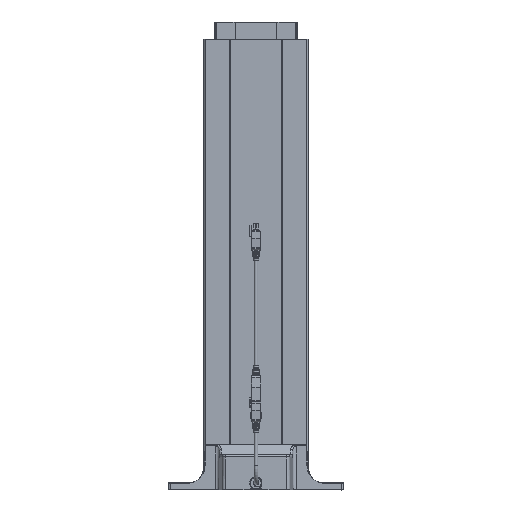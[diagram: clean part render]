
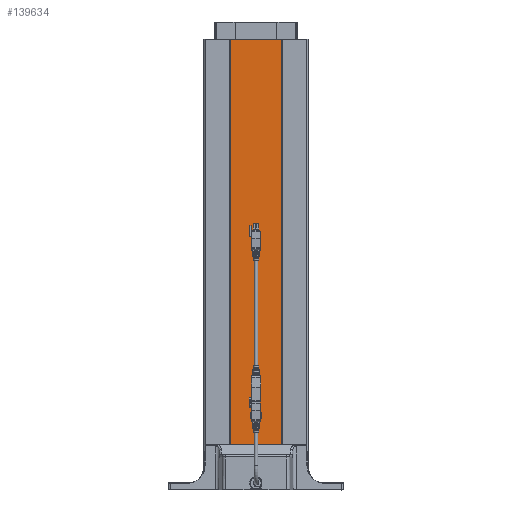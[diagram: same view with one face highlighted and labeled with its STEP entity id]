
A CAD part, top view. The second image highlights one B-rep face of the part: STEP entity #139634.
In plain terms, the highlighted planar face has unit normal (0, 0, 1) as drawn and (0, 1, 0) by its records, which use the part's own axes.
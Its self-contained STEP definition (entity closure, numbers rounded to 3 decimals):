
#35397=ORIENTED_EDGE('',*,*,#54428,.T.);
#35398=ORIENTED_EDGE('',*,*,#54481,.F.);
#35399=ORIENTED_EDGE('',*,*,#54294,.F.);
#35400=ORIENTED_EDGE('',*,*,#54480,.T.);
#54294=EDGE_CURVE('',#64666,#64667,#70832,.T.);
#54428=EDGE_CURVE('',#64801,#64800,#70930,.T.);
#54480=EDGE_CURVE('',#64666,#64801,#70978,.T.);
#54481=EDGE_CURVE('',#64667,#64800,#70979,.T.);
#64666=VERTEX_POINT('',#431902);
#64667=VERTEX_POINT('',#431904);
#64800=VERTEX_POINT('',#432171);
#64801=VERTEX_POINT('',#432173);
#70832=LINE('',#431903,#76615);
#70930=LINE('',#432172,#76713);
#70978=LINE('',#432269,#76761);
#70979=LINE('',#432271,#76762);
#76615=VECTOR('',#167319,1000.);
#76713=VECTOR('',#167491,1000.);
#76761=VECTOR('',#167579,1000.);
#76762=VECTOR('',#167582,1000.);
#83730=EDGE_LOOP('',(#35397,#35398,#35399,#35400));
#90335=FACE_BOUND('',#83730,.T.);
#92913=PLANE('',#147952);
#139634=ADVANCED_FACE('',(#90335),#92913,.F.);
#147952=AXIS2_PLACEMENT_3D('',#432270,#167580,#167581);
#167319=DIRECTION('',(1.,0.,0.));
#167491=DIRECTION('',(1.,0.,0.));
#167579=DIRECTION('',(0.,0.,1.));
#167580=DIRECTION('',(0.,-1.,0.));
#167581=DIRECTION('',(0.,0.,-1.));
#167582=DIRECTION('',(0.,0.,1.));
#431902=CARTESIAN_POINT('',(-37.,29.5,-580.));
#431903=CARTESIAN_POINT('',(-37.,29.5,-580.));
#431904=CARTESIAN_POINT('',(37.,29.5,-580.));
#432171=CARTESIAN_POINT('',(37.,29.5,0.));
#432172=CARTESIAN_POINT('',(-37.,29.5,0.));
#432173=CARTESIAN_POINT('',(-37.,29.5,0.));
#432269=CARTESIAN_POINT('',(-37.,29.5,-580.));
#432270=CARTESIAN_POINT('',(-37.,29.5,-580.));
#432271=CARTESIAN_POINT('',(37.,29.5,-580.));
